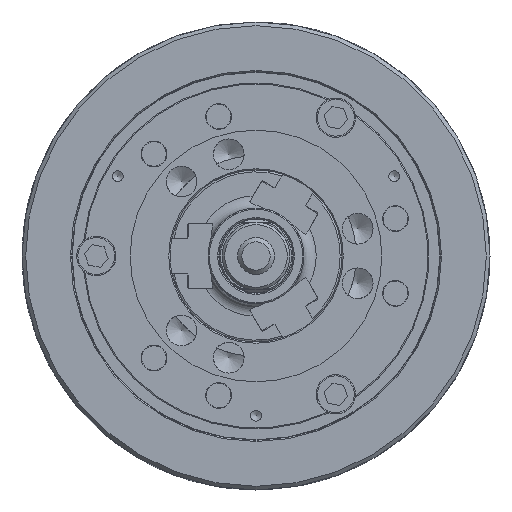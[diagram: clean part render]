
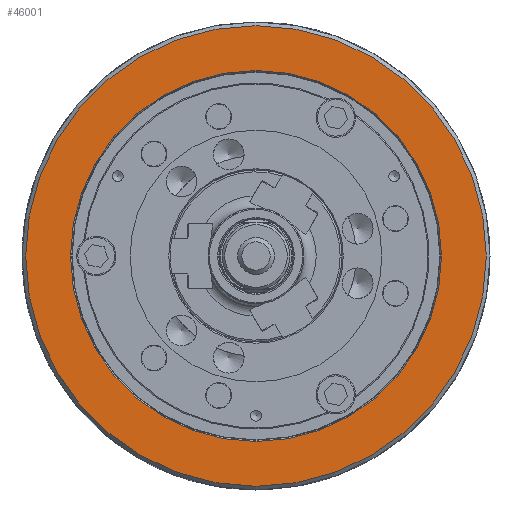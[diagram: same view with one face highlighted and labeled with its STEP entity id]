
A CAD part, left-side view. The second image highlights one B-rep face of the part: STEP entity #46001.
In plain terms, the highlighted planar face has unit normal (-1, 0, 0).
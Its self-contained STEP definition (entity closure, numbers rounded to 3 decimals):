
#1290 = FACE_OUTER_BOUND ( 'NONE', #29742, .T. ) ;
#2047 = VERTEX_POINT ( 'NONE', #31147 ) ;
#6115 = CARTESIAN_POINT ( 'NONE',  ( -114., 0., 187.5 ) ) ;
#7526 = DIRECTION ( 'NONE',  ( 0., 0., 1. ) ) ;
#15196 = VERTEX_POINT ( 'NONE', #6115 ) ;
#18662 = DIRECTION ( 'NONE',  ( 0., 0., -1. ) ) ;
#20685 = AXIS2_PLACEMENT_3D ( 'NONE', #40933, #75987, #18662 ) ;
#27829 = AXIS2_PLACEMENT_3D ( 'NONE', #49903, #79006, #7526 ) ;
#29742 = EDGE_LOOP ( 'NONE', ( #89425 ) ) ;
#31147 = CARTESIAN_POINT ( 'NONE',  ( -114., 0., 151. ) ) ;
#37718 = EDGE_CURVE ( 'NONE', #2047, #2047, #89030, .T. ) ;
#40933 = CARTESIAN_POINT ( 'NONE',  ( -114., 187.5, 0. ) ) ;
#46001 = ADVANCED_FACE ( 'NONE', ( #66691, #1290 ), #75387, .F. ) ;
#49903 = CARTESIAN_POINT ( 'NONE',  ( -114., 0., 0. ) ) ;
#52939 = AXIS2_PLACEMENT_3D ( 'NONE', #68806, #76561, #83660 ) ;
#66691 = FACE_BOUND ( 'NONE', #87155, .T. ) ;
#68806 = CARTESIAN_POINT ( 'NONE',  ( -114., 0., 0. ) ) ;
#75387 = PLANE ( 'NONE',  #20685 ) ;
#75987 = DIRECTION ( 'NONE',  ( 1., 0., 0. ) ) ;
#76561 = DIRECTION ( 'NONE',  ( -1., 0., 0. ) ) ;
#79006 = DIRECTION ( 'NONE',  ( -1., 0., 0. ) ) ;
#83660 = DIRECTION ( 'NONE',  ( 0., 0., 1. ) ) ;
#84496 = ORIENTED_EDGE ( 'NONE', *, *, #37718, .F. ) ;
#86439 = EDGE_CURVE ( 'NONE', #15196, #15196, #88991, .T. ) ;
#87155 = EDGE_LOOP ( 'NONE', ( #84496 ) ) ;
#88991 = CIRCLE ( 'NONE', #52939, 187.5 ) ;
#89030 = CIRCLE ( 'NONE', #27829, 151. ) ;
#89425 = ORIENTED_EDGE ( 'NONE', *, *, #86439, .T. ) ;
